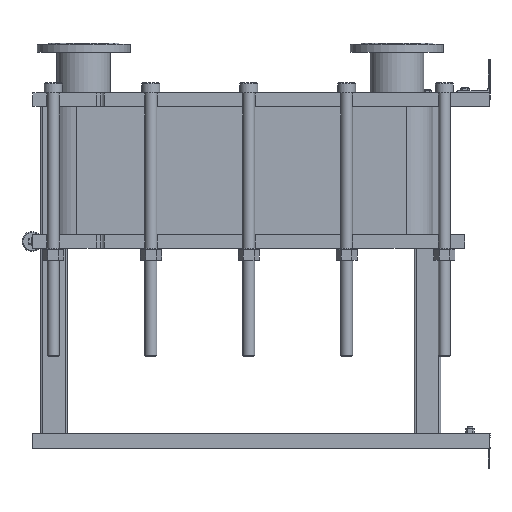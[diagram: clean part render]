
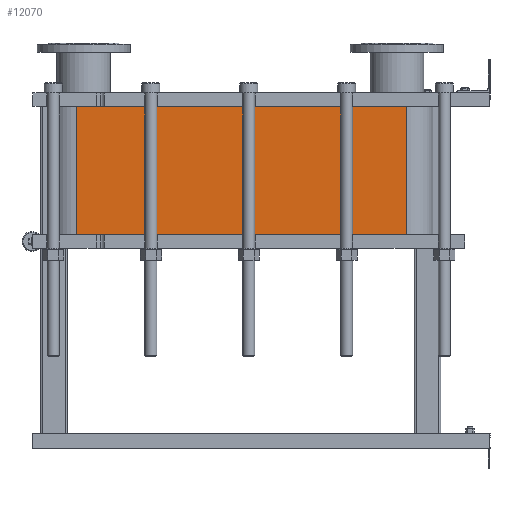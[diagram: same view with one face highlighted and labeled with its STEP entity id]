
A CAD part, left-side view. The second image highlights one B-rep face of the part: STEP entity #12070.
In plain terms, the highlighted planar face has unit normal (-1, 0, 0).
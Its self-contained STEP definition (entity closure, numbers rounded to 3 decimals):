
#1064=LINE('',#21140,#2164);
#1065=LINE('',#21144,#2165);
#1066=LINE('',#21146,#2166);
#1067=LINE('',#21147,#2167);
#2164=VECTOR('',#15790,10.);
#2165=VECTOR('',#15795,10.);
#2166=VECTOR('',#15796,10.);
#2167=VECTOR('',#15797,10.);
#3304=FACE_OUTER_BOUND('',#4091,.T.);
#4091=EDGE_LOOP('',(#9793,#9794,#9795,#9796));
#5677=VERTEX_POINT('',#21137);
#5678=VERTEX_POINT('',#21139);
#5679=VERTEX_POINT('',#21143);
#5680=VERTEX_POINT('',#21145);
#7118=EDGE_CURVE('',#5678,#5677,#1064,.T.);
#7120=EDGE_CURVE('',#5677,#5679,#1065,.T.);
#7121=EDGE_CURVE('',#5680,#5679,#1066,.T.);
#7122=EDGE_CURVE('',#5680,#5678,#1067,.T.);
#9793=ORIENTED_EDGE('',*,*,#7120,.T.);
#9794=ORIENTED_EDGE('',*,*,#7121,.F.);
#9795=ORIENTED_EDGE('',*,*,#7122,.T.);
#9796=ORIENTED_EDGE('',*,*,#7118,.T.);
#11441=PLANE('',#13191);
#12070=ADVANCED_FACE('',(#3304),#11441,.T.);
#13191=AXIS2_PLACEMENT_3D('',#21142,#15793,#15794);
#15790=DIRECTION('',(0.,0.,-1.));
#15793=DIRECTION('center_axis',(-1.,0.,0.));
#15794=DIRECTION('ref_axis',(0.,1.,0.));
#15795=DIRECTION('',(0.,-1.,0.));
#15796=DIRECTION('',(0.,0.,-1.));
#15797=DIRECTION('',(0.,1.,0.));
#21137=CARTESIAN_POINT('',(-248.152,1243.818,-386.4));
#21139=CARTESIAN_POINT('',(-248.152,1243.818,0.));
#21140=CARTESIAN_POINT('',(-248.152,1243.818,0.));
#21142=CARTESIAN_POINT('Origin',(-248.152,251.818,0.));
#21143=CARTESIAN_POINT('',(-248.152,251.818,-386.4));
#21144=CARTESIAN_POINT('',(-248.152,499.818,-386.4));
#21145=CARTESIAN_POINT('',(-248.152,251.818,0.));
#21146=CARTESIAN_POINT('',(-248.152,251.818,0.));
#21147=CARTESIAN_POINT('',(-248.152,251.818,0.));
